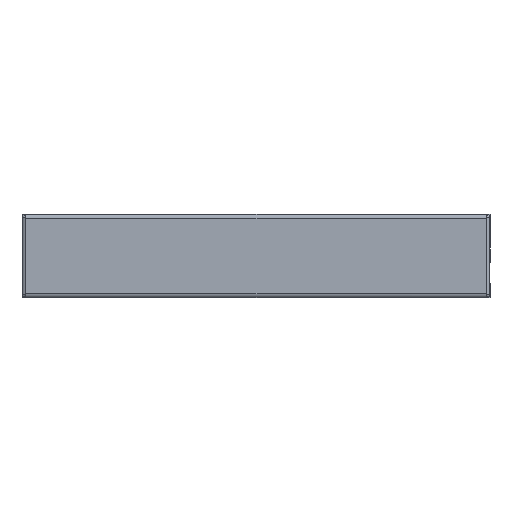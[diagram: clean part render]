
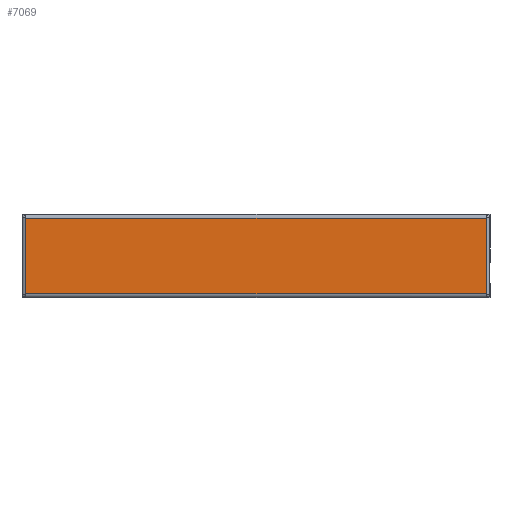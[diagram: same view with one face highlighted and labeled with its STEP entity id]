
A CAD part, front view. The second image highlights one B-rep face of the part: STEP entity #7069.
In plain terms, the highlighted planar face has unit normal (0, -1, 0) as drawn and (0, 0, -1) by its records, which use the part's own axes.
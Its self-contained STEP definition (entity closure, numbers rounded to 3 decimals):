
#6584=CARTESIAN_POINT('',(-8.,88.5,0.0));
#6585=VERTEX_POINT('',#6584);
#6679=CARTESIAN_POINT('',(21.,88.5,0.));
#6680=VERTEX_POINT('',#6679);
#6720=CARTESIAN_POINT('',(21.,88.5,0.0));
#6721=DIRECTION('',(-1.0,0.0,0.0));
#6722=VECTOR('',#6721,29.0);
#6723=LINE('',#6720,#6722);
#6724=EDGE_CURVE('',#6680,#6585,#6723,.T.);
#6796=CARTESIAN_POINT('',(-8.,-88.5,0.));
#6797=VERTEX_POINT('',#6796);
#6891=CARTESIAN_POINT('',(21.0,-88.5,0.0));
#6892=VERTEX_POINT('',#6891);
#6932=CARTESIAN_POINT('',(21.,-88.5,0.0));
#6933=DIRECTION('',(0.0,1.0,0.0));
#6934=VECTOR('',#6933,177.0);
#6935=LINE('',#6932,#6934);
#6936=EDGE_CURVE('',#6892,#6680,#6935,.T.);
#6947=CARTESIAN_POINT('',(-8.,-88.5,0.0));
#6948=DIRECTION('',(1.0,0.0,0.0));
#6949=VECTOR('',#6948,29.);
#6950=LINE('',#6947,#6949);
#6951=EDGE_CURVE('',#6797,#6892,#6950,.T.);
#6969=CARTESIAN_POINT('',(-8.,88.5,0.0));
#6970=DIRECTION('',(0.0,-1.0,0.0));
#6971=VECTOR('',#6970,177.0);
#6972=LINE('',#6969,#6971);
#6973=EDGE_CURVE('',#6585,#6797,#6972,.T.);
#7058=CARTESIAN_POINT('',(6.5,0.,0.0));
#7059=DIRECTION('',(0.0,0.0,1.0));
#7060=DIRECTION('',(1.0,0.0,0.0));
#7061=AXIS2_PLACEMENT_3D('',#7058,#7059,#7060);
#7062=PLANE('',#7061);
#7063=ORIENTED_EDGE('',*,*,#6724,.F.);
#7064=ORIENTED_EDGE('',*,*,#6936,.F.);
#7065=ORIENTED_EDGE('',*,*,#6951,.F.);
#7066=ORIENTED_EDGE('',*,*,#6973,.F.);
#7067=EDGE_LOOP('',(#7063,#7064,#7065,#7066));
#7068=FACE_OUTER_BOUND('',#7067,.T.);
#7069=ADVANCED_FACE('',(#7068),#7062,.F.);
